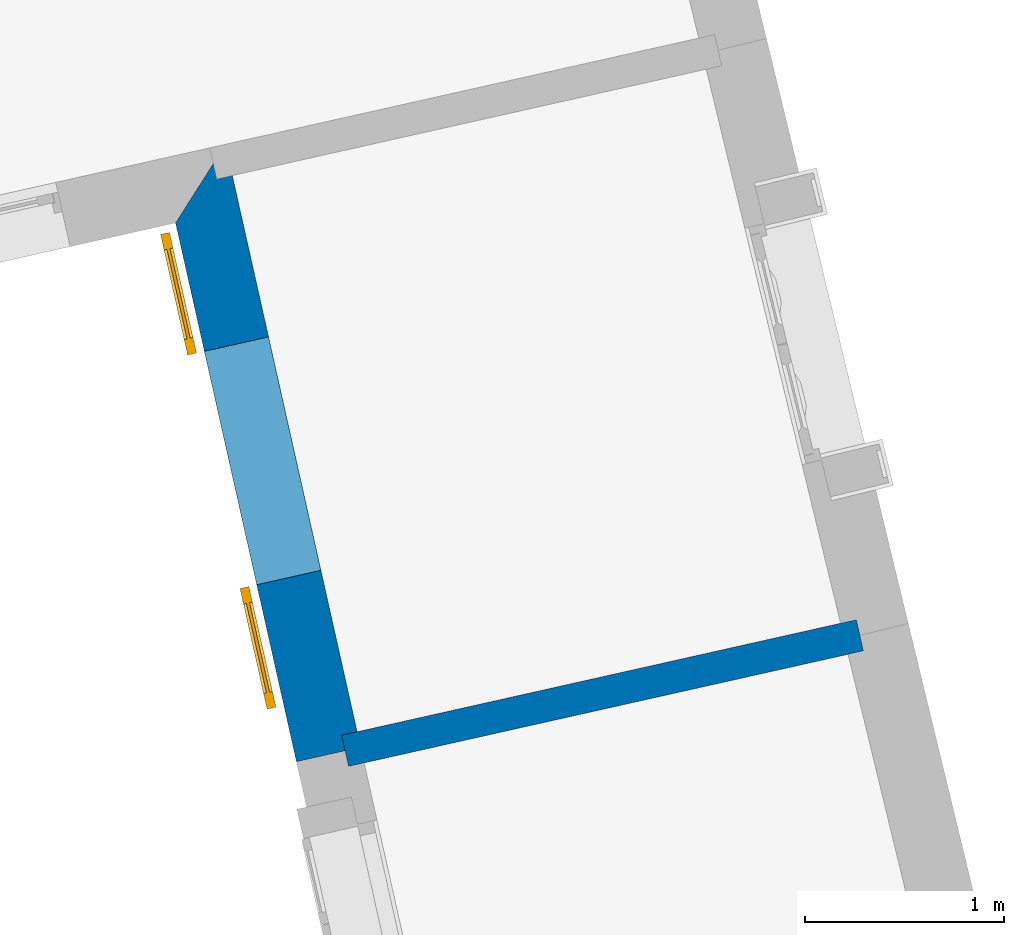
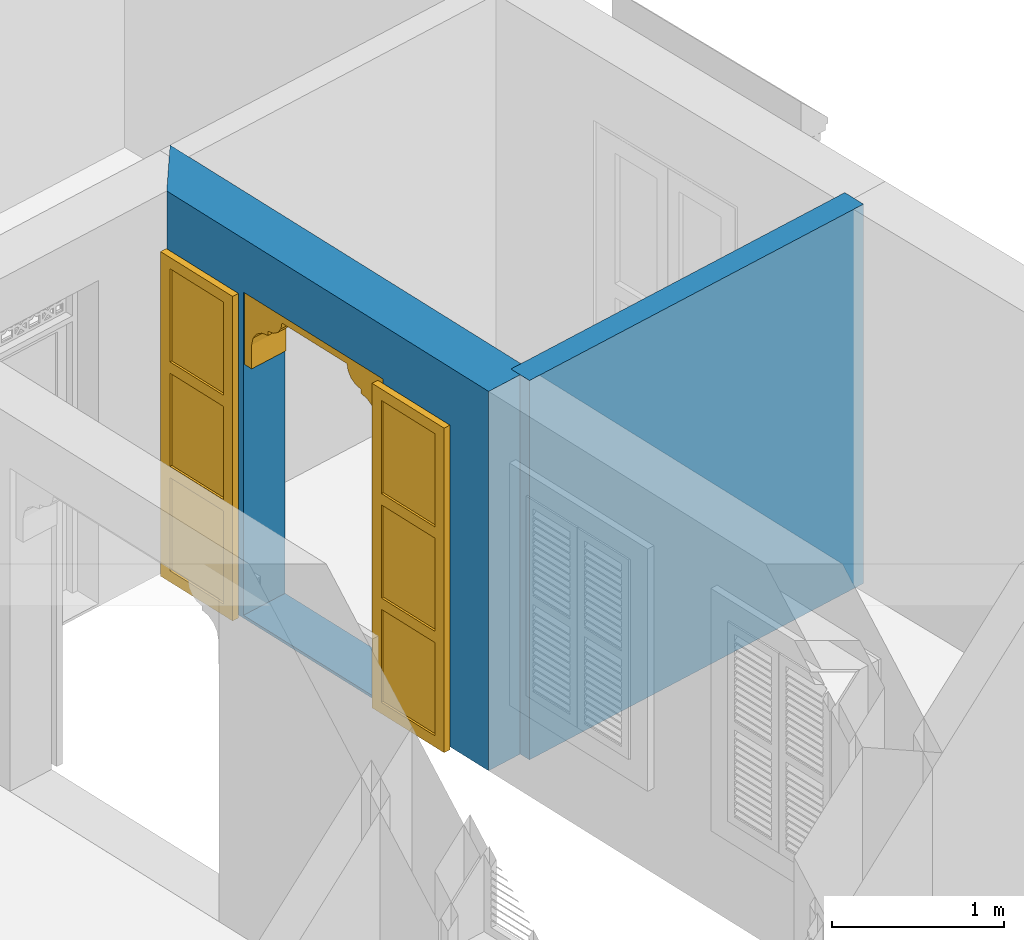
# One storey, part 8 of 13: 2 walls, 1 door, 1 opening.
"""IFC4 building model written with IfcOpenShell, lengths in metres."""

from ifc_helpers import new_model, si_unit, frame, origin, origin_with_axes, place, context, subcontext, project, spatial, polyline, outline, extrude, faceted_brep, source, transform, mapped, material, layer, layer_set, layer_usage, type_object, type_shapes, element, fill, save


model = new_model("IFC4")

# Units and contexts
model_context = context("Model", 3, world=origin_with_axes())
body_context = subcontext(model_context, "Body", "Model", "MODEL_VIEW")
ifc_project = project(units=[si_unit("PLANEANGLEUNIT", "RADIAN"), si_unit("MASSUNIT", "GRAM", prefix="KILO"), si_unit("FORCEUNIT", "NEWTON", prefix="KILO"), si_unit("LENGTHUNIT", "METRE"), si_unit("AREAUNIT", "SQUARE_METRE"), si_unit("VOLUMEUNIT", "CUBIC_METRE")], contexts=[model_context, model_context])

# Site, building, storey
site_placement = place(None, origin_with_axes())
site = spatial("IfcSite", under=ifc_project, at=site_placement, Name="Site plot-10", CompositionType="ELEMENT")
building_placement = place(None, origin_with_axes())
building = spatial("IfcBuilding", under=site, at=building_placement, Name="Building plot-10", CompositionType="ELEMENT")
storey_placement = place(None, origin_with_axes())
storey = spatial("IfcBuildingStorey", under=building, at=storey_placement, Name="plot-10 0", CompositionType="ELEMENT", Elevation=0.0)

# Wall, opening, door
ifc_material_1 = material(Name="Masonry")
ifc_layer_1 = layer(ifc_material_1, 0.33, ventilated=False)
ifc_layer_set_1 = layer_set([ifc_layer_1], Name="exterior_0.08_0.25")
ifc_layer_usage_1 = layer_usage(ifc_layer_set_1, "AXIS2", "POSITIVE", -0.25)
wall_type_1 = type_object("IfcWallType", Name="exterior_0.08_0.25", PredefinedType="SOLIDWALL", material=ifc_layer_set_1)
wall_1_placement = place(storey_placement, frame((-19.2193938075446, 17.7002126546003, 0.0), z_axis=(0.0, 0.0, 1.0), x_axis=(0.218925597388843, -0.975741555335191, 0.0)))
wall_1 = element("IfcWall", 1, at=wall_1_placement, inside=storey, type_object=wall_type_1, material=ifc_layer_usage_1, Name="exterior", context=body_context, shape_type="SweptSolid", body=[
    extrude(outline(polyline([(-0.0799999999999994, 0.0799999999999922), (0.250000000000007, -0.250000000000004), (3.01969270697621, -0.249999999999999), (3.01969270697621, 0.0799999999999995), (-0.0799999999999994, 0.0799999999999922)])), origin_with_axes(), (0.0, 0.0, 1.0), 2.7),
])
opening_placement = place(wall_1_placement, frame((0.909846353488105, 0.0, 0.02)))
opening = element("IfcOpeningElement", 2, at=opening_placement, cuts=wall_1, Name="My Opening", ObjectType="Opening", context=body_context, shape_type="SweptSolid", body=[
    extrude(outline(polyline([(0.0, -0.270000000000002), (1.2, -0.269999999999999), (1.2, 1.1), (-1.55431223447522e-15, 1.1), (0.0, -0.270000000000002)])), origin_with_axes(), (0.0, 0.0, 1.0), 2.3),
])
door_type = type_object("IfcDoorType", Name="arch-1200x2300", OperationType="SINGLE_SWING_LEFT", PredefinedType="NOTDEFINED")
shared_shape = source(origin(), body_context, "Body", "Brep", [
    faceted_brep([(-0.08, -0.02, 0.08), (-0.08, -0.02, 0.0), (-0.54, -0.02, 0.0), (-0.54, -0.02, 0.08), (-0.62, -0.02, 0.0), (-0.62, -0.02, 0.08), (-0.54, -0.035, 0.08), (-0.08, -0.035, 0.08), (0.0, -0.02, 0.08), (0.0, -0.02, 0.0), (-0.08, -0.066, 0.0), (-0.54, -0.066, 0.0), (-0.62, -0.066, 0.0), (-0.62, -0.066, 0.08), (-0.54, -0.02, 0.743333), (-0.62, -0.02, 0.743333), (-0.54, -0.035, 0.743333), (-0.08, -0.035, 0.743333), (-0.08, -0.02, 0.743333), (0.0, -0.02, 0.743333), (0.0, -0.066, 0.08), (0.0, -0.066, 0.0), (-0.54, -0.066, 0.08), (-0.08, -0.066, 0.08), (-0.62, -0.066, 0.743333), (-0.54, -0.02, 0.823333), (-0.62, -0.02, 0.823333), (0.0, -0.066, 0.743333), (0.0, -0.02, 0.823333), (-0.08, -0.02, 0.823333), (-0.08, -0.051, 0.08), (-0.54, -0.051, 0.08), (-0.54, -0.066, 0.743333), (-0.62, -0.066, 0.823333), (-0.54, -0.02, 1.486667), (-0.62, -0.02, 1.486667), (0.0, -0.066, 0.823333), (-0.08, -0.066, 0.743333), (0.0, -0.02, 1.486667), (-0.08, -0.02, 1.486667), (-0.08, -0.051, 0.743333), (-0.54, -0.051, 0.743333), (-0.54, -0.066, 0.823333), (-0.62, -0.066, 1.486667), (-0.54, -0.035, 0.823333), (-0.08, -0.035, 0.823333), (-0.54, -0.035, 1.486667), (-0.54, -0.02, 1.566667), (-0.62, -0.02, 1.566667), (0.0, -0.066, 1.486667), (-0.08, -0.066, 0.823333), (-0.08, -0.035, 1.486667), (0.0, -0.02, 1.566667), (-0.08, -0.02, 1.566667), (-0.54, -0.066, 1.486667), (-0.62, -0.066, 1.566667), (-0.54, -0.02, 2.23), (-0.62, -0.02, 2.23), (0.0, -0.066, 1.566667), (-0.08, -0.066, 1.486667), (0.0, -0.02, 2.23), (-0.08, -0.02, 2.23), (-0.08, -0.051, 0.823333), (-0.54, -0.051, 0.823333), (-0.54, -0.051, 1.486667), (-0.54, -0.066, 1.566667), (-0.62, -0.066, 2.23), (-0.54, -0.035, 1.566667), (-0.08, -0.035, 1.566667), (-0.54, -0.035, 2.23), (-0.54, -0.02, 2.31), (-0.62, -0.02, 2.31), (0.0, -0.066, 2.23), (-0.08, -0.066, 1.566667), (-0.08, -0.051, 1.486667), (-0.08, -0.035, 2.23), (0.0, -0.02, 2.31), (-0.08, -0.02, 2.31), (-0.54, -0.066, 2.23), (-0.62, -0.066, 2.31), (-0.54, -0.066, 2.31), (0.0, -0.066, 2.31), (-0.08, -0.066, 2.23), (-0.08, -0.066, 2.31), (-0.08, -0.051, 1.566667), (-0.54, -0.051, 1.566667), (-0.54, -0.051, 2.23), (-0.08, -0.051, 2.23), (1.74, -0.02, 0.08), (1.74, -0.02, 0.0), (1.28, -0.02, 0.0), (1.28, -0.02, 0.08), (1.82, -0.02, 0.08), (1.82, -0.02, 0.0), (1.28, -0.035, 0.08), (1.74, -0.035, 0.08), (1.2, -0.02, 0.0), (1.2, -0.02, 0.08), (1.74, -0.066, 0.0), (1.28, -0.066, 0.0), (1.82, -0.066, 0.08), (1.82, -0.066, 0.0), (1.82, -0.02, 0.743333), (1.74, -0.02, 0.743333), (1.74, -0.035, 0.743333), (1.28, -0.035, 0.743333), (1.28, -0.02, 0.743333), (1.2, -0.02, 0.743333), (1.2, -0.066, 0.0), (1.2, -0.066, 0.08), (1.28, -0.066, 0.08), (1.74, -0.066, 0.08), (1.82, -0.066, 0.743333), (1.82, -0.02, 0.823333), (1.74, -0.02, 0.823333), (1.2, -0.066, 0.743333), (1.28, -0.02, 0.823333), (1.2, -0.02, 0.823333), (1.74, -0.051, 0.08), (1.28, -0.051, 0.08), (1.74, -0.066, 0.743333), (1.82, -0.066, 0.823333), (1.82, -0.02, 1.486667), (1.74, -0.02, 1.486667), (1.2, -0.066, 0.823333), (1.28, -0.066, 0.743333), (1.28, -0.02, 1.486667), (1.2, -0.02, 1.486667), (1.28, -0.051, 0.743333), (1.74, -0.051, 0.743333), (1.74, -0.066, 0.823333), (1.82, -0.066, 1.486667), (1.28, -0.035, 0.823333), (1.74, -0.035, 0.823333), (1.74, -0.035, 1.486667), (1.82, -0.02, 1.566667), (1.74, -0.02, 1.566667), (1.2, -0.066, 1.486667), (1.28, -0.066, 0.823333), (1.28, -0.035, 1.486667), (1.28, -0.02, 1.566667), (1.2, -0.02, 1.566667), (1.74, -0.066, 1.486667), (1.82, -0.066, 1.566667), (1.82, -0.02, 2.23), (1.74, -0.02, 2.23), (1.2, -0.066, 1.566667), (1.28, -0.066, 1.486667), (1.28, -0.02, 2.23), (1.2, -0.02, 2.23), (1.74, -0.051, 0.823333), (1.28, -0.051, 0.823333), (1.74, -0.051, 1.486667), (1.74, -0.066, 1.566667), (1.82, -0.066, 2.23), (1.28, -0.035, 1.566667), (1.74, -0.035, 1.566667), (1.74, -0.035, 2.23), (1.82, -0.02, 2.31), (1.74, -0.02, 2.31), (1.2, -0.066, 2.23), (1.28, -0.066, 1.566667), (1.28, -0.051, 1.486667), (1.28, -0.035, 2.23), (1.28, -0.02, 2.31), (1.2, -0.02, 2.31), (1.74, -0.066, 2.23), (1.82, -0.066, 2.31), (1.74, -0.066, 2.31), (1.2, -0.066, 2.31), (1.28, -0.066, 2.23), (1.28, -0.066, 2.31), (1.74, -0.051, 1.566667), (1.28, -0.051, 1.566667), (1.74, -0.051, 2.23), (1.28, -0.051, 2.23), (1.2, 0.03, 1.78), (1.2, 0.03, 1.95), (1.14, 0.03, 1.95), (1.14, 0.03, 1.78), (1.14, 0.3, 1.95), (1.14, 0.3, 1.78), (1.2, 0.03, 2.12), (1.129, 0.03, 2.004), (1.2, 0.3, 1.78), (1.2, 0.3, 1.95), (1.129, 0.3, 2.004), (1.099, 0.03, 2.049), (1.2, 0.3, 2.12), (1.099, 0.3, 2.049), (1.054, 0.03, 2.079), (1.2, 0.3, 2.29), (1.2, 0.03, 2.29), (1.054, 0.3, 2.079), (1.0, 0.03, 2.09), (1.0, 0.03, 2.12), (0.954, 0.03, 2.129), (0.88, 0.3, 2.29), (0.88, 0.03, 2.29), (1.0, 0.3, 2.12), (0.954, 0.3, 2.129), (1.0, 0.3, 2.09), (0.915, 0.03, 2.155), (0.889, 0.3, 2.194), (0.88, 0.3, 2.24), (0.88, 0.03, 2.24), (0.889, 0.03, 2.194), (0.915, 0.3, 2.155), (0.06, 0.03, 1.78), (0.06, 0.03, 1.95), (0.0, 0.03, 1.95), (0.0, 0.03, 1.78), (0.06, 0.3, 1.78), (0.06, 0.3, 1.95), (0.071, 0.03, 2.004), (0.0, 0.03, 2.12), (0.0, 0.3, 1.95), (0.0, 0.3, 1.78), (0.071, 0.3, 2.004), (0.101, 0.03, 2.049), (0.0, 0.3, 2.12), (0.101, 0.3, 2.049), (0.146, 0.03, 2.079), (0.0, 0.03, 2.29), (0.0, 0.3, 2.29), (0.146, 0.3, 2.079), (0.2, 0.03, 2.12), (0.2, 0.03, 2.09), (0.246, 0.03, 2.129), (0.32, 0.03, 2.29), (0.32, 0.3, 2.29), (0.246, 0.3, 2.129), (0.2, 0.3, 2.12), (0.2, 0.3, 2.09), (0.285, 0.03, 2.155), (0.32, 0.3, 2.24), (0.311, 0.3, 2.194), (0.311, 0.03, 2.194), (0.32, 0.03, 2.24), (0.285, 0.3, 2.155)], [[[0, 1, 2, 3]], [[4, 5, 3, 2]], [[0, 3, 6, 7]], [[1, 0, 8, 9]], [[2, 1, 10, 11]], [[5, 4, 12, 13]], [[14, 3, 5, 15]], [[4, 2, 11, 12]], [[3, 14, 16, 6]], [[6, 16, 17, 7]], [[18, 0, 7, 17]], [[0, 18, 19, 8]], [[9, 8, 20, 21]], [[1, 9, 21, 10]], [[22, 11, 10, 23]], [[13, 12, 11, 22]], [[15, 5, 13, 24]], [[25, 14, 15, 26]], [[14, 18, 17, 16]], [[8, 19, 27, 20]], [[28, 19, 18, 29]], [[23, 10, 21, 20]], [[22, 23, 30, 31]], [[22, 32, 24, 13]], [[26, 15, 24, 33]], [[29, 18, 14, 25]], [[34, 25, 26, 35]], [[19, 28, 36, 27]], [[20, 27, 37, 23]], [[38, 28, 29, 39]], [[23, 37, 40, 30]], [[41, 31, 30, 40]], [[32, 22, 31, 41]], [[32, 42, 33, 24]], [[35, 26, 33, 43]], [[29, 25, 44, 45]], [[25, 34, 46, 44]], [[47, 34, 35, 48]], [[28, 38, 49, 36]], [[27, 36, 50, 37]], [[39, 29, 45, 51]], [[52, 38, 39, 53]], [[37, 32, 41, 40]], [[37, 50, 42, 32]], [[42, 54, 43, 33]], [[48, 35, 43, 55]], [[44, 46, 51, 45]], [[34, 39, 51, 46]], [[34, 47, 53, 39]], [[56, 47, 48, 57]], [[38, 52, 58, 49]], [[36, 49, 59, 50]], [[60, 52, 53, 61]], [[42, 50, 62, 63]], [[54, 42, 63, 64]], [[54, 65, 55, 43]], [[57, 48, 55, 66]], [[53, 47, 67, 68]], [[47, 56, 69, 67]], [[70, 56, 57, 71]], [[52, 60, 72, 58]], [[49, 58, 73, 59]], [[50, 59, 74, 62]], [[61, 53, 68, 75]], [[76, 60, 61, 77]], [[64, 63, 62, 74]], [[59, 54, 64, 74]], [[65, 54, 59, 73]], [[65, 78, 66, 55]], [[71, 57, 66, 79]], [[67, 69, 75, 68]], [[56, 61, 75, 69]], [[77, 61, 56, 70]], [[70, 71, 79, 80]], [[60, 76, 81, 72]], [[58, 72, 82, 73]], [[76, 77, 83, 81]], [[65, 73, 84, 85]], [[78, 65, 85, 86]], [[78, 80, 79, 66]], [[77, 70, 80, 83]], [[72, 81, 83, 82]], [[73, 82, 87, 84]], [[86, 85, 84, 87]], [[82, 78, 86, 87]], [[82, 83, 80, 78]], [[88, 89, 90, 91]], [[89, 88, 92, 93]], [[94, 95, 88, 91]], [[96, 97, 91, 90]], [[98, 99, 90, 89]], [[100, 101, 93, 92]], [[102, 92, 88, 103]], [[101, 98, 89, 93]], [[95, 104, 103, 88]], [[94, 105, 104, 95]], [[105, 94, 91, 106]], [[97, 107, 106, 91]], [[108, 109, 97, 96]], [[99, 108, 96, 90]], [[110, 99, 98, 111]], [[111, 98, 101, 100]], [[112, 100, 92, 102]], [[113, 102, 103, 114]], [[104, 105, 106, 103]], [[109, 115, 107, 97]], [[116, 106, 107, 117]], [[109, 108, 99, 110]], [[118, 119, 110, 111]], [[100, 112, 120, 111]], [[121, 112, 102, 113]], [[114, 103, 106, 116]], [[122, 113, 114, 123]], [[115, 124, 117, 107]], [[110, 125, 115, 109]], [[126, 116, 117, 127]], [[119, 128, 125, 110]], [[128, 119, 118, 129]], [[129, 118, 111, 120]], [[112, 121, 130, 120]], [[131, 121, 113, 122]], [[132, 133, 114, 116]], [[133, 134, 123, 114]], [[135, 122, 123, 136]], [[124, 137, 127, 117]], [[125, 138, 124, 115]], [[139, 132, 116, 126]], [[140, 126, 127, 141]], [[128, 129, 120, 125]], [[120, 130, 138, 125]], [[121, 131, 142, 130]], [[143, 131, 122, 135]], [[132, 139, 134, 133]], [[134, 139, 126, 123]], [[126, 140, 136, 123]], [[144, 135, 136, 145]], [[137, 146, 141, 127]], [[138, 147, 137, 124]], [[148, 140, 141, 149]], [[150, 151, 138, 130]], [[152, 150, 130, 142]], [[131, 143, 153, 142]], [[154, 143, 135, 144]], [[155, 156, 136, 140]], [[156, 157, 145, 136]], [[158, 144, 145, 159]], [[146, 160, 149, 141]], [[147, 161, 146, 137]], [[151, 162, 147, 138]], [[163, 155, 140, 148]], [[164, 148, 149, 165]], [[162, 151, 150, 152]], [[162, 152, 142, 147]], [[161, 147, 142, 153]], [[143, 154, 166, 153]], [[167, 154, 144, 158]], [[155, 163, 157, 156]], [[157, 163, 148, 145]], [[159, 145, 148, 164]], [[168, 167, 158, 159]], [[160, 169, 165, 149]], [[161, 170, 160, 146]], [[169, 171, 164, 165]], [[172, 173, 161, 153]], [[174, 172, 153, 166]], [[154, 167, 168, 166]], [[171, 168, 159, 164]], [[170, 171, 169, 160]], [[173, 175, 170, 161]], [[175, 173, 172, 174]], [[175, 174, 166, 170]], [[166, 168, 171, 170]], [[176, 177, 178, 179]], [[180, 181, 179, 178]], [[177, 182, 183, 178]], [[177, 176, 184, 185]], [[181, 184, 176, 179]], [[181, 180, 185, 184]], [[186, 180, 178, 183]], [[182, 187, 183]], [[182, 177, 185, 188]], [[180, 186, 188, 185]], [[189, 186, 183, 187]], [[182, 190, 187]], [[188, 191, 192, 182]], [[188, 186, 189]], [[193, 189, 187, 190]], [[194, 190, 182, 195]], [[182, 192, 196, 195]], [[192, 191, 197, 198]], [[199, 200, 191, 188]], [[188, 189, 193]], [[201, 193, 190, 194]], [[199, 201, 194, 195]], [[200, 199, 195, 196]], [[192, 202, 196]], [[191, 203, 204, 197]], [[192, 198, 205, 206]], [[207, 191, 200]], [[199, 188, 193, 201]], [[207, 200, 196, 202]], [[192, 206, 202]], [[204, 203, 206, 205]], [[203, 191, 207]], [[203, 207, 202, 206]], [[208, 209, 210, 211]], [[209, 208, 212, 213]], [[209, 214, 215, 210]], [[211, 210, 216, 217]], [[208, 211, 217, 212]], [[217, 216, 213, 212]], [[214, 209, 213, 218]], [[214, 219, 215]], [[220, 216, 210, 215]], [[216, 220, 218, 213]], [[219, 214, 218, 221]], [[219, 222, 215]], [[215, 223, 224, 220]], [[221, 218, 220]], [[222, 219, 221, 225]], [[226, 215, 222, 227]], [[226, 228, 223, 215]], [[229, 230, 224, 223]], [[220, 224, 231, 232]], [[225, 221, 220]], [[227, 222, 225, 233]], [[226, 227, 233, 232]], [[228, 226, 232, 231]], [[228, 234, 223]], [[230, 235, 236, 224]], [[237, 238, 229, 223]], [[231, 224, 239]], [[233, 225, 220, 232]], [[234, 228, 231, 239]], [[234, 237, 223]], [[238, 237, 236, 235]], [[239, 224, 236]], [[237, 234, 239, 236]], [[238, 235, 204, 205]], [[235, 230, 197, 204]], [[229, 238, 205, 198]], [[230, 229, 198, 197]]]),
])
type_shapes(door_type, [shared_shape])
door_placement = place(storey_placement, frame((-19.2836553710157, 16.7533278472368, 0.02), z_axis=(0.0, 0.0, 1.0), x_axis=(0.262710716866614, -1.17088986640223, 0.0)))
door = element("IfcDoor", 3, at=door_placement, inside=storey, type_object=door_type, Name="circulation sahn door", OverallHeight=2.3, OverallWidth=1.2, context=body_context, shape_type="MappedRepresentation", body=[
    mapped(shared_shape, transform((0.0, 0.0, 0.0), scale=1.0)),
])
fill(opening, door)

# Wall
ifc_material_2 = material(Name="Masonry")
ifc_layer_2 = layer(ifc_material_2, 0.16, ventilated=False)
ifc_layer_set_2 = layer_set([ifc_layer_2], Name="interior_0.08_0.08")
ifc_layer_usage_2 = layer_usage(ifc_layer_set_2, "AXIS2", "POSITIVE", -0.08)
wall_type_2 = type_object("IfcWallType", Name="interior_0.08_0.08", PredefinedType="SOLIDWALL", material=ifc_layer_set_2)
wall_2_placement = place(storey_placement, frame((-18.5583057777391, 14.753772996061, 0.0), z_axis=(0.0, 0.0, 1.0), x_axis=(0.975741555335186, 0.218925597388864, 0.0)))
element("IfcWall", 4, at=wall_2_placement, inside=storey, type_object=wall_type_2, material=ifc_layer_usage_2, Name="interior", context=body_context, shape_type="SweptSolid", body=[
    extrude(outline(polyline([(-6.34589874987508e-16, 0.080000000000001), (6.44387049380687e-16, -0.080000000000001), (2.64700595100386, -0.080000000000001), (2.64700595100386, 0.0800000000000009), (-6.34589874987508e-16, 0.080000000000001)])), origin_with_axes(), (0.0, 0.0, 1.0), 2.7),
])

save(model, "model.ifc")
